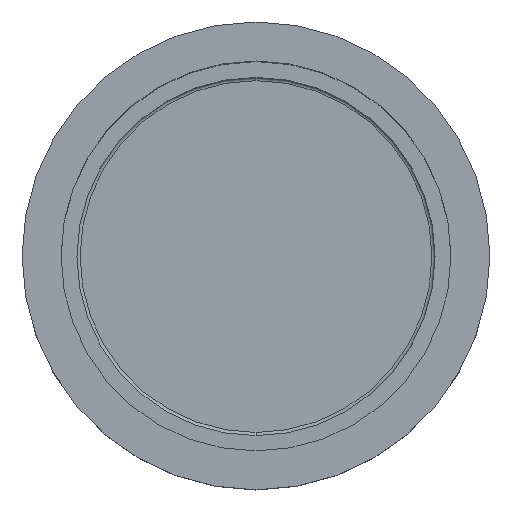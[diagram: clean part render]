
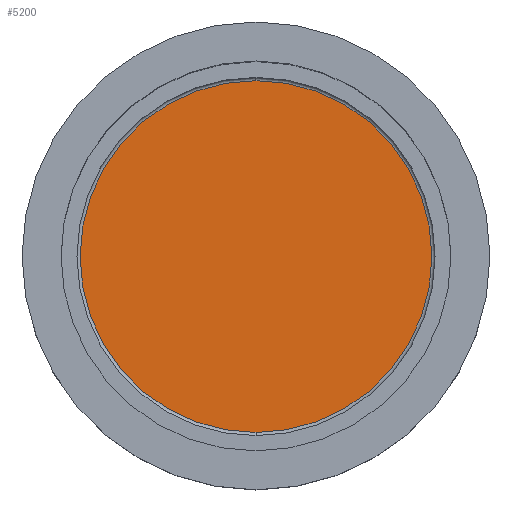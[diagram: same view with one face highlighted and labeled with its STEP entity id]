
A CAD part, top view. The second image highlights one B-rep face of the part: STEP entity #5200.
In plain terms, the highlighted planar face has unit normal (0, 0, 1) as drawn and (1, 0, 0) by its records, which use the part's own axes.
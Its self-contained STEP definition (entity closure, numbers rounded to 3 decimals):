
#5000=CARTESIAN_POINT('',(117.098,34.97,
0.));
#5010=DIRECTION('',(1.,0.,0.));
#5020=DIRECTION('',(0.,1.,0.));
#5030=AXIS2_PLACEMENT_3D('',#5000,#5010,#5020);
#5040=PLANE('',#5030);
#5050=CARTESIAN_POINT('',(117.098,49.095,0.
));
#5060=DIRECTION('',(1.,0.,0.));
#5070=DIRECTION('',(0.,1.,0.));
#5080=AXIS2_PLACEMENT_3D('',#5050,#5060,#5070);
#5090=CIRCLE('',#5080,27.75);
#5100=CARTESIAN_POINT('',(117.098,21.345,
0.));
#5110=VERTEX_POINT('',#5100);
#5120=CARTESIAN_POINT('',(117.098,76.845,0.
));
#5130=VERTEX_POINT('',#5120);
#5140=EDGE_CURVE('',#5110,#5130,#5090,.T.);
#5150=ORIENTED_EDGE('',*,*,#5140,.T.);
#5160=EDGE_CURVE('',#5130,#5110,#5090,.T.);
#5170=ORIENTED_EDGE('',*,*,#5160,.T.);
#5180=EDGE_LOOP('',(#5170,#5150));
#5190=FACE_OUTER_BOUND('',#5180,.T.);
#5200=ADVANCED_FACE('',(#5190),#5040,.T.);
